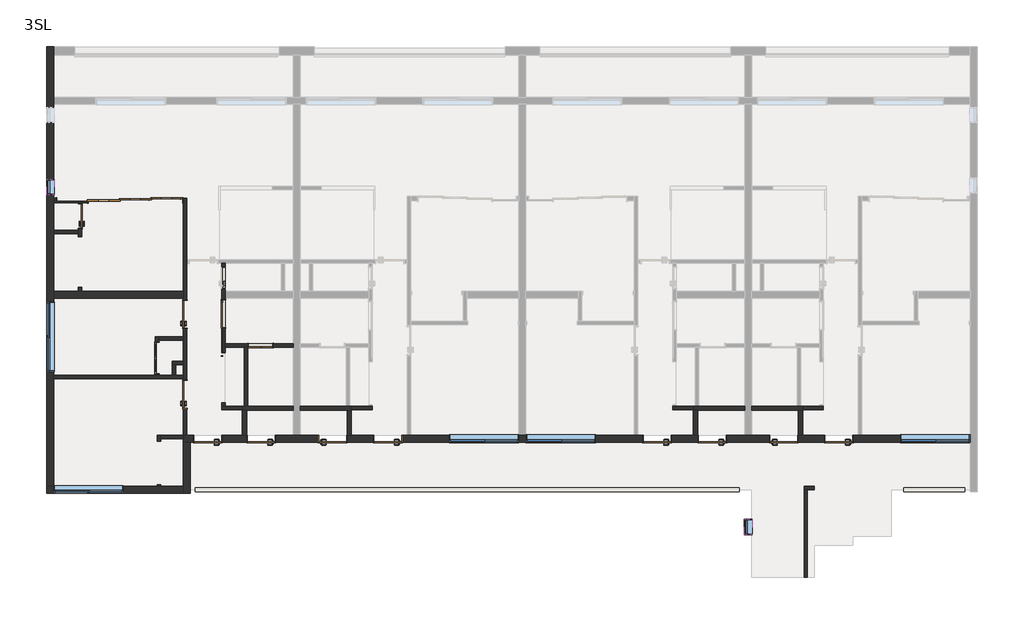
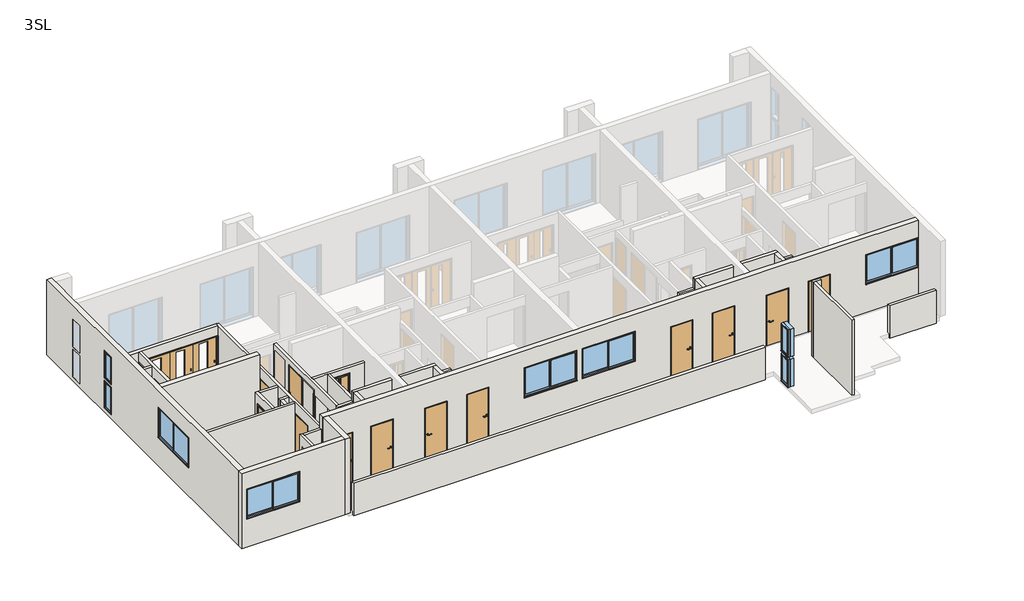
# One storey, part 1 of 3: 35 walls, 15 doors, 9 windows.
"""IFC4 building model written with IfcOpenShell, lengths in millimetres."""

from ifc_helpers import new_model, si_unit, frame, origin, place, context, project, spatial, polyline, outline, extrude, faceted_brep, transform, mapped, element, save
from components import door_02215395, door_74c77d62, door_21f0bdc0, door_3b96e66a, door_ecad7493, door_6eb1cc95, door_2193869f, door_12b42705, window_a7724039, window_4c3e1407, w0450_h1100_93ba837a

model = new_model("IFC4")

# Units and contexts
model_context = context("Model", 3, world=origin())
ifc_project = project(units=[si_unit("LENGTHUNIT", "METRE", prefix="MILLI")], contexts=[model_context])

# Site, building, storey
site = spatial("IfcSite", under=ifc_project)
building = spatial("IfcBuilding", under=site)
storey = spatial("IfcBuildingStorey", under=building, Name="3SL", Elevation=7000.0)

# Doors
placement = place(None, origin())
door_shape = door_02215395(model_context)
element("IfcDoor", 1, ObjectType="鋼製_片開きマンション黒 : SD-1 w800h2000", at=placement, inside=storey, context=model_context, shape_type="MappedRepresentation", body=[
    mapped(door_shape, transform((-6095.6194095, -909.7401342, 7000.0), x_axis=(-1.0, 0.0, 0.0), y_axis=(0.0, -1.0, 0.0), z_axis=(0.0, 0.0, 1.0))),
])
element("IfcDoor", 2, ObjectType="鋼製_片開きマンション黒 : SD-1 w800h2000", at=placement, inside=storey, context=model_context, shape_type="MappedRepresentation", body=[
    mapped(door_shape, transform((-945.6194095, -909.7401342, 7000.0), x_axis=(-1.0, 0.0, 0.0), y_axis=(0.0, -1.0, 0.0), z_axis=(0.0, 0.0, 1.0))),
])
element("IfcDoor", 3, ObjectType="鋼製_片開きマンション黒 : SD-1 w800h2000", at=placement, inside=storey, context=model_context, shape_type="MappedRepresentation", body=[
    mapped(door_shape, transform((6754.3805905, -909.7401342, 7000.0), x_axis=(-1.0, 0.0, 0.0), y_axis=(0.0, -1.0, 0.0), z_axis=(0.0, 0.0, 1.0))),
])
element("IfcDoor", 4, ObjectType="鋼製_片開きマンション黒 : SD-1 w800h2000", at=placement, inside=storey, context=model_context, shape_type="MappedRepresentation", body=[
    mapped(door_shape, transform((11954.3805905, -909.7401342, 7000.0), x_axis=(-1.0, 0.0, 0.0), y_axis=(0.0, -1.0, 0.0), z_axis=(0.0, 0.0, 1.0))),
])
element("IfcDoor", 5, ObjectType="鋼製_片開きマンション黒 : SD-2 w800h2000", at=placement, inside=storey, context=model_context, shape_type="MappedRepresentation", body=[
    mapped(door_shape, transform((-4565.6194095, -909.7401342, 7000.0), x_axis=(-1.0, 0.0, 0.0), y_axis=(0.0, -1.0, 0.0), z_axis=(0.0, 0.0, 1.0))),
])
element("IfcDoor", 6, ObjectType="鋼製_片開きマンション黒 : SD-2 w800h2000", at=placement, inside=storey, context=model_context, shape_type="MappedRepresentation", body=[
    mapped(door_shape, transform((8334.3805905, -909.7401342, 7000.0), x_axis=(-1.0, 0.0, 0.0), y_axis=(0.0, -1.0, 0.0), z_axis=(0.0, 0.0, 1.0))),
])
door_2_shape = door_74c77d62(model_context)
element("IfcDoor", 7, ObjectType="鋼製_片開きマンション黒 : SD-2 w800h2000", at=placement, inside=storey, context=model_context, shape_type="MappedRepresentation", body=[
    mapped(door_2_shape, transform((-2525.6194095, -909.7401342, 7000.0), x_axis=(1.0, 0.0, 0.0), y_axis=(0.0, 1.0, 0.0), z_axis=(0.0, 0.0, 1.0))),
])
element("IfcDoor", 8, ObjectType="鋼製_片開きマンション黒 : SD-2 w800h2000", at=placement, inside=storey, context=model_context, shape_type="MappedRepresentation", body=[
    mapped(door_2_shape, transform((10374.3805905, -909.7401342, 7000.0), x_axis=(1.0, 0.0, 0.0), y_axis=(0.0, 1.0, 0.0), z_axis=(0.0, 0.0, 1.0))),
])
door_3_shape = door_21f0bdc0(model_context)
element("IfcDoor", 9, ObjectType="木製_片開き_フラッシュ : WD-3 w700h2000", at=placement, inside=storey, context=model_context, shape_type="MappedRepresentation", body=[
    mapped(door_3_shape, transform((-9745.6194095, 5460.2598658, 7100.0), x_axis=(0.0, 1.0, 0.0), y_axis=(-1.0, 0.0, 0.0), z_axis=(0.0, 0.0, 1.0))),
])
door_4_shape = door_3b96e66a(model_context)
element("IfcDoor", 10, ObjectType="木製_片開き_フラッシュ : WD-1\u3000w800h2000", at=placement, inside=storey, context=model_context, shape_type="MappedRepresentation", body=[
    mapped(door_4_shape, transform((-6745.6194095, 365.2598658, 7060.0), x_axis=(0.0, 1.0, 0.0), y_axis=(-1.0, 0.0, 0.0), z_axis=(0.0, 0.0, 1.0))),
])
element("IfcDoor", 11, ObjectType="木製_片開き_フラッシュ : WD-1\u3000w800h2000", at=placement, inside=storey, context=model_context, shape_type="MappedRepresentation", body=[
    mapped(door_4_shape, transform((-6745.6194095, 2654.3897435, 7060.0), x_axis=(0.0, 1.0, 0.0), y_axis=(-1.0, 0.0, 0.0), z_axis=(0.0, 0.0, 1.0))),
])
door_5_shape = door_ecad7493(model_context)
element("IfcDoor", 12, ObjectType="木製_折戸2枚_フラッシュ(UB) : WD-5 w900h2000", at=placement, inside=storey, context=model_context, shape_type="MappedRepresentation", body=[
    mapped(door_5_shape, transform((-7545.6194095, 1404.0387532, 7060.0), x_axis=(0.0, 1.0, 0.0), y_axis=(-1.0, 0.0, 0.0), z_axis=(0.0, 0.0, 1.0))),
])
door_6_shape = door_6eb1cc95(model_context)
element("IfcDoor", 13, ObjectType="木製_折戸2枚_フラッシュ(UB) : UB-1 w600h2000", at=placement, inside=storey, context=model_context, shape_type="MappedRepresentation", body=[
    mapped(door_6_shape, transform((-4585.6194095, 1760.2598658, 7210.0), x_axis=(1.0, 0.0, 0.0), y_axis=(0.0, 1.0, 0.0), z_axis=(0.0, 0.0, 1.0))),
])
door_7_shape = door_2193869f(model_context)
element("IfcDoor", 14, ObjectType="木製_片引き3枚_フラッシュ2 : WD-8 w2700h2000", at=placement, inside=storey, context=model_context, shape_type="MappedRepresentation", body=[
    mapped(door_7_shape, transform((-8171.1549135, 5910.2598658, 7100.0), x_axis=(-1.0, 0.0, 0.0), y_axis=(0.0, -1.0, 0.0), z_axis=(0.0, 0.0, 1.0))),
])
door_8_shape = door_12b42705(model_context)
element("IfcDoor", 15, ObjectType="木製_片引き_フラッシュ : WD-4 w800h2000", at=placement, inside=storey, context=model_context, shape_type="MappedRepresentation", body=[
    mapped(door_8_shape, transform((-5645.6194095, 2664.7243619, 7210.0), x_axis=(0.0, -1.0, 0.0), y_axis=(1.0, 0.0, 0.0), z_axis=(0.0, 0.0, 1.0))),
])

# Walls
element("IfcWall", 16, ObjectType="(C2)120", at=placement, inside=storey, context=model_context, shape_type="Brep", body=[
    faceted_brep([(-3645.6194095, 30.2598658, 7000.0), (-5105.6194095, 30.2598658, 7000.0), (-5105.6194095, 30.2598658, 7060.0), (-5105.6194095, 30.2598658, 9460.0), (-5105.6194095, 30.2598658, 9850.0), (-3645.6194095, 30.2598658, 9850.0), (-3645.6194095, -89.7401342, 7000.0), (-3645.6194095, -89.7401342, 9850.0), (-4985.6194095, -89.7401342, 9850.0), (-5105.6194095, -89.7401342, 9850.0), (-5105.6194095, -89.7401342, 7000.0), (-4985.6194095, -89.7401342, 7000.0)], [[[0, 1, 2, 3, 4, 5]], [[6, 7, 8, 9, 10, 11]], [[1, 0, 6, 11, 10]], [[5, 4, 9, 8, 7]], [[1, 10, 9, 4, 3, 2]], [[0, 5, 7, 6]]]),
])
element("IfcWall", 17, ObjectType="(C2)120", at=placement, inside=storey, context=model_context, shape_type="Brep", body=[
    faceted_brep([(-5105.6194095, -89.7401342, 9850.0), (-5105.6194095, -89.7401342, 7000.0), (-5105.6194095, -809.7401342, 7000.0), (-5105.6194095, -809.7401342, 9850.0), (-4985.6194095, -89.7401342, 7000.0), (-4985.6194095, -89.7401342, 9850.0), (-4985.6194095, -809.7401342, 9850.0), (-4985.6194095, -809.7401342, 9020.0), (-4985.6194095, -809.7401342, 7000.0)], [[[0, 1, 2, 3]], [[4, 5, 6, 7, 8]], [[2, 1, 4, 8]], [[0, 3, 6, 5]], [[0, 5, 4, 1]], [[3, 2, 8, 7, 6]]]),
])
element("IfcWall", 18, ObjectType="(C2)120", at=placement, inside=storey, context=model_context, shape_type="Brep", body=[
    faceted_brep([(-3445.6194095, -89.7401342, 7000.0), (-2105.6194095, -89.7401342, 7000.0), (-1985.6194095, -89.7401342, 7000.0), (-1985.6194095, -89.7401342, 9850.0), (-2105.6194095, -89.7401342, 9850.0), (-3445.6194095, -89.7401342, 9850.0), (-3445.6194095, 30.2598658, 7000.0), (-3445.6194095, 30.2598658, 9850.0), (-1985.6194095, 30.2598658, 9850.0), (-1985.6194095, 30.2598658, 9460.0), (-1985.6194095, 30.2598658, 7000.0), (-2035.6194095, 30.2598658, 7000.0), (-2135.6194095, 30.2598658, 7000.0), (-1985.6194095, -69.7401342, 7000.0)], [[[0, 1, 2, 3, 4, 5]], [[6, 7, 8, 9, 10, 11, 12]], [[2, 1, 0, 6, 12, 11, 10, 13]], [[5, 4, 3, 8, 7]], [[2, 13, 10, 9, 8, 3]], [[0, 5, 7, 6]]]),
])
element("IfcWall", 19, ObjectType="(C2)120", at=placement, inside=storey, context=model_context, shape_type="Brep", body=[
    faceted_brep([(-2105.6194095, -89.7401342, 9850.0), (-2105.6194095, -89.7401342, 7000.0), (-2105.6194095, -809.7401342, 7000.0), (-2105.6194095, -809.7401342, 9020.0), (-2105.6194095, -809.7401342, 9850.0), (-1985.6194095, -89.7401342, 7000.0), (-1985.6194095, -89.7401342, 9850.0), (-1985.6194095, -809.7401342, 9850.0), (-1985.6194095, -809.7401342, 7000.0)], [[[0, 1, 2, 3, 4]], [[5, 6, 7, 8]], [[2, 1, 5, 8]], [[0, 4, 7, 6]], [[0, 6, 5, 1]], [[4, 3, 2, 8, 7]]]),
])
element("IfcWall", 20, ObjectType="(C2)120", at=placement, inside=storey, context=model_context, shape_type="Brep", body=[
    faceted_brep([(9254.3805905, 30.2598658, 7000.0), (7944.3805905, 30.2598658, 7000.0), (7844.3805905, 30.2598658, 7000.0), (7794.3805905, 30.2598658, 7000.0), (7794.3805905, 30.2598658, 9460.0), (7794.3805905, 30.2598658, 9850.0), (9254.3805905, 30.2598658, 9850.0), (9254.3805905, -89.7401342, 7000.0), (9254.3805905, -89.7401342, 9850.0), (7914.3805905, -89.7401342, 9850.0), (7794.3805905, -89.7401342, 9850.0), (7794.3805905, -89.7401342, 7000.0), (7914.3805905, -89.7401342, 7000.0), (7794.3805905, -69.7401342, 7000.0)], [[[0, 1, 2, 3, 4, 5, 6]], [[7, 8, 9, 10, 11, 12]], [[3, 2, 1, 0, 7, 12, 11, 13]], [[6, 5, 10, 9, 8]], [[3, 13, 11, 10, 5, 4]], [[0, 6, 8, 7]]]),
])
element("IfcWall", 21, ObjectType="(C2)120", at=placement, inside=storey, context=model_context, shape_type="Brep", body=[
    faceted_brep([(7794.3805905, -89.7401342, 9850.0), (7794.3805905, -89.7401342, 7000.0), (7794.3805905, -809.7401342, 7000.0), (7794.3805905, -809.7401342, 9850.0), (7914.3805905, -89.7401342, 7000.0), (7914.3805905, -89.7401342, 9850.0), (7914.3805905, -809.7401342, 9850.0), (7914.3805905, -809.7401342, 9020.0), (7914.3805905, -809.7401342, 7000.0)], [[[0, 1, 2, 3]], [[4, 5, 6, 7, 8]], [[2, 1, 4, 8]], [[0, 3, 6, 5]], [[0, 5, 4, 1]], [[3, 2, 8, 7, 6]]]),
])
element("IfcWall", 22, ObjectType="(C2)120", at=placement, inside=storey, context=model_context, shape_type="Brep", body=[
    faceted_brep([(9454.3805905, -89.7401342, 7000.0), (10794.3805905, -89.7401342, 7000.0), (10914.3805905, -89.7401342, 7000.0), (10914.3805905, -89.7401342, 9850.0), (10794.3805905, -89.7401342, 9850.0), (9454.3805905, -89.7401342, 9850.0), (9454.3805905, 30.2598658, 7000.0), (9454.3805905, 30.2598658, 9850.0), (10914.3805905, 30.2598658, 9850.0), (10914.3805905, 30.2598658, 9460.0), (10914.3805905, 30.2598658, 7000.0), (10864.3805905, 30.2598658, 7000.0), (10764.3805905, 30.2598658, 7000.0), (10914.3805905, -69.7401342, 7000.0)], [[[0, 1, 2, 3, 4, 5]], [[6, 7, 8, 9, 10, 11, 12]], [[2, 1, 0, 6, 12, 11, 10, 13]], [[5, 4, 3, 8, 7]], [[2, 13, 10, 9, 8, 3]], [[0, 5, 7, 6]]]),
])
element("IfcWall", 23, ObjectType="(C2)120", at=placement, inside=storey, context=model_context, shape_type="Brep", body=[
    faceted_brep([(10794.3805905, -89.7401342, 9850.0), (10794.3805905, -89.7401342, 7000.0), (10794.3805905, -809.7401342, 7000.0), (10794.3805905, -809.7401342, 9020.0), (10794.3805905, -809.7401342, 9850.0), (10914.3805905, -89.7401342, 7000.0), (10914.3805905, -89.7401342, 9850.0), (10914.3805905, -809.7401342, 9850.0), (10914.3805905, -809.7401342, 7000.0)], [[[0, 1, 2, 3, 4]], [[5, 6, 7, 8]], [[2, 1, 5, 8]], [[0, 4, 7, 6]], [[0, 6, 5, 1]], [[4, 3, 2, 8, 7]]]),
])
element("IfcWall", 24, ObjectType="(L)100", at=placement, inside=storey, context=model_context, shape_type="Brep", body=[
    faceted_brep([(-7545.6194095, -2259.7401342, 9460.0), (-7545.6194095, -809.7401342, 9460.0), (-7545.6194095, -809.7401342, 7060.0), (-7545.6194095, -975.9612468, 7060.0), (-7545.6194095, -975.9612468, 9080.0), (-7545.6194095, -2215.9612468, 9080.0), (-7545.6194095, -2215.9612468, 7060.0), (-7545.6194095, -2259.7401342, 7060.0), (-7445.6194095, -809.7401342, 9460.0), (-7445.6194095, -909.7401342, 9460.0), (-7445.6194095, -2259.7401342, 9460.0), (-7445.6194095, -2259.7401342, 7060.0), (-7445.6194095, -2215.9612468, 7060.0), (-7445.6194095, -2215.9612468, 9080.0), (-7445.6194095, -975.9612468, 9080.0), (-7445.6194095, -975.9612468, 7060.0), (-7445.6194095, -909.7401342, 7060.0), (-7445.6194095, -809.7401342, 7060.0)], [[[0, 1, 2, 3, 4, 5, 6, 7]], [[8, 9, 10, 11, 12, 13, 14, 15, 16, 17]], [[2, 17, 16, 15, 3]], [[11, 7, 6, 12]], [[1, 0, 10, 9, 8]], [[2, 1, 8, 17]], [[0, 7, 11, 10]], [[14, 4, 3, 15]], [[5, 13, 12, 6]], [[13, 5, 4, 14]]]),
])
element("IfcWall", 25, ObjectType="(L)100", at=placement, inside=storey, context=model_context, shape_type="SweptSolid", body=[
    extrude(outline(polyline([(-7445.6194095, -809.7401342), (-6795.6194095, -809.7401342), (-6795.6194095, -909.7401342), (-7445.6194095, -909.7401342), (-7445.6194095, -809.7401342)])), frame((0.0, 0.0, 7060.0), z_axis=(0.0, 0.0, 1.0), x_axis=(1.0, 0.0, 0.0)), (0.0, 0.0, 1.0), 2400.0),
])
element("IfcWall", 26, ObjectType="(L)100", at=placement, inside=storey, context=model_context, shape_type="Brep", body=[
    faceted_brep([(-6795.6194095, 910.2598658, 7060.0), (-7015.6194095, 910.2598658, 7060.0), (-7115.6194095, 910.2598658, 7060.0), (-10495.6194095, 910.2598658, 7060.0), (-10495.6194095, 910.2598658, 9460.0), (-7595.6194095, 910.2598658, 9460.0), (-7495.6194095, 910.2598658, 9460.0), (-7115.6194095, 910.2598658, 9460.0), (-7015.6194095, 910.2598658, 9460.0), (-6795.6194095, 910.2598658, 9460.0), (-6795.6194095, 810.2598658, 7060.0), (-6795.6194095, 810.2598658, 9460.0), (-10495.6194095, 810.2598658, 9460.0), (-10495.6194095, 810.2598658, 7060.0)], [[[0, 1, 2, 3, 4, 5, 6, 7, 8, 9]], [[10, 11, 12, 13]], [[3, 2, 1, 0, 10, 13]], [[9, 8, 7, 6, 5, 4, 12, 11]], [[4, 3, 13, 12]], [[0, 9, 11, 10]]]),
])
element("IfcWall", 27, ObjectType="(L)100", at=placement, inside=storey, context=model_context, shape_type="Brep", body=[
    faceted_brep([(-5105.6194095, 30.2598658, 7060.0), (-5595.6194095, 30.2598658, 7060.0), (-5695.6194095, 30.2598658, 7060.0), (-5695.6194095, 30.2598658, 9460.0), (-5595.6194095, 30.2598658, 9460.0), (-5105.6194095, 30.2598658, 9460.0), (-5105.6194095, -69.7401342, 7060.0), (-5105.6194095, -69.7401342, 9460.0), (-5695.6194095, -69.7401342, 9460.0), (-5695.6194095, -69.7401342, 7060.0)], [[[0, 1, 2, 3, 4, 5]], [[6, 7, 8, 9]], [[2, 1, 0, 6, 9]], [[5, 4, 3, 8, 7]], [[3, 2, 9, 8]], [[0, 5, 7, 6]]]),
])
element("IfcWall", 28, ObjectType="(L)100", at=placement, inside=storey, context=model_context, shape_type="Brep", body=[
    faceted_brep([(-5595.6194095, 4110.2598658, 9460.0), (-5595.6194095, 1810.2598658, 9460.0), (-5595.6194095, 1710.2598658, 9460.0), (-5595.6194095, 30.2598658, 9460.0), (-5595.6194095, 30.2598658, 7060.0), (-5595.6194095, 120.2598658, 7060.0), (-5595.6194095, 120.2598658, 9020.0), (-5595.6194095, 1560.2598658, 9020.0), (-5595.6194095, 1560.2598658, 7060.0), (-5595.6194095, 1710.2598658, 7060.0), (-5595.6194095, 1810.2598658, 7060.0), (-5595.6194095, 4110.2598658, 7060.0), (-5595.6194095, 2250.2598658, 9230.0), (-5595.6194095, 3090.2598658, 9230.0), (-5595.6194095, 3090.2598658, 7210.0), (-5595.6194095, 2250.2598658, 7210.0), (-5595.6194095, 4016.254513, 9230.0), (-5595.6194095, 4016.254513, 7210.0), (-5595.6194095, 3376.254513, 7210.0), (-5595.6194095, 3376.254513, 9230.0), (-5695.6194095, 30.2598658, 9460.0), (-5695.6194095, 4110.2598658, 9460.0), (-5695.6194095, 4110.2598658, 7060.0), (-5695.6194095, 1560.2598658, 7060.0), (-5695.6194095, 1560.2598658, 7210.0), (-5695.6194095, 3090.2598658, 7210.0), (-5695.6194095, 3090.2598658, 9230.0), (-5695.6194095, 1450.2598658, 9230.0), (-5695.6194095, 1450.2598658, 9020.0), (-5695.6194095, 120.2598658, 9020.0), (-5695.6194095, 120.2598658, 7060.0), (-5695.6194095, 30.2598658, 7060.0), (-5695.6194095, 4016.254513, 7210.0), (-5695.6194095, 4016.254513, 9230.0), (-5695.6194095, 3376.254513, 9230.0), (-5695.6194095, 3376.254513, 7210.0), (-5665.6194095, 2250.2598658, 9230.0), (-5665.6194095, 1450.2598658, 9230.0), (-5665.6194095, 1560.2598658, 7210.0), (-5665.6194095, 2250.2598658, 7210.0), (-5665.6194095, 1560.2598658, 9020.0), (-5665.6194095, 1450.2598658, 9020.0)], [[[0, 1, 2, 3, 4, 5, 6, 7, 8, 9, 10, 11], [12, 13, 14, 15], [16, 17, 18, 19]], [[20, 21, 22, 23, 24, 25, 26, 27, 28, 29, 30, 31], [32, 33, 34, 35]], [[22, 11, 10, 9, 8, 23]], [[4, 31, 30, 5]], [[3, 2, 1, 0, 21, 20]], [[0, 11, 22, 21]], [[4, 3, 20, 31]], [[36, 37, 27, 26, 13, 12]], [[13, 26, 25, 14]], [[14, 25, 24, 38, 39, 15]], [[39, 36, 12, 15]], [[37, 36, 39, 38, 40, 41]], [[27, 37, 41, 28]], [[7, 40, 38, 24, 23, 8]], [[29, 6, 5, 30]], [[40, 7, 6, 29, 28, 41]], [[16, 33, 32, 17]], [[17, 32, 35, 18]], [[18, 35, 34, 19]], [[33, 16, 19, 34]]]),
])
element("IfcWall", 29, ObjectType="(L)100", at=placement, inside=storey, context=model_context, shape_type="Brep", body=[
    faceted_brep([(-3645.6194095, 1810.2598658, 7060.0), (-5595.6194095, 1810.2598658, 7060.0), (-5595.6194095, 1810.2598658, 9460.0), (-3645.6194095, 1810.2598658, 9460.0), (-4215.6194095, 1810.2598658, 9230.0), (-4955.6194095, 1810.2598658, 9230.0), (-4955.6194095, 1810.2598658, 7210.0), (-4215.6194095, 1810.2598658, 7210.0), (-3645.6194095, 1710.2598658, 7060.0), (-3645.6194095, 1710.2598658, 9460.0), (-4955.6194095, 1710.2598658, 9460.0), (-5055.6194095, 1710.2598658, 9460.0), (-5595.6194095, 1710.2598658, 9460.0), (-5595.6194095, 1710.2598658, 7060.0), (-5055.6194095, 1710.2598658, 7060.0), (-4955.6194095, 1710.2598658, 7060.0), (-4215.6194095, 1710.2598658, 9230.0), (-4215.6194095, 1710.2598658, 7210.0), (-4955.6194095, 1710.2598658, 7210.0), (-4955.6194095, 1710.2598658, 9230.0)], [[[0, 1, 2, 3], [4, 5, 6, 7]], [[8, 9, 10, 11, 12, 13, 14, 15], [16, 17, 18, 19]], [[1, 0, 8, 15, 14, 13]], [[3, 2, 12, 11, 10, 9]], [[0, 3, 9, 8]], [[2, 1, 13, 12]], [[17, 16, 4, 7]], [[18, 17, 7, 6]], [[19, 18, 6, 5]], [[16, 19, 5, 4]]]),
])
element("IfcWall", 30, ObjectType="(L)100", at=placement, inside=storey, context=model_context, shape_type="Brep", body=[
    faceted_brep([(-7595.6194095, 2010.2598658, 7000.0), (-7595.6194095, 910.2598658, 7000.0), (-7595.6194095, 910.2598658, 9460.0), (-7595.6194095, 2010.2598658, 9460.0), (-7595.6194095, 934.0387532, 7060.0), (-7595.6194095, 1874.0387532, 7060.0), (-7595.6194095, 1874.0387532, 9080.0), (-7595.6194095, 934.0387532, 9080.0), (-7495.6194095, 910.2598658, 7000.0), (-7495.6194095, 2010.2598658, 7000.0), (-7495.6194095, 2010.2598658, 7060.0), (-7495.6194095, 2010.2598658, 9460.0), (-7495.6194095, 1910.2598658, 9460.0), (-7495.6194095, 910.2598658, 9460.0), (-7495.6194095, 1874.0387532, 7060.0), (-7495.6194095, 934.0387532, 7060.0), (-7495.6194095, 934.0387532, 9080.0), (-7495.6194095, 1874.0387532, 9080.0)], [[[0, 1, 2, 3], [4, 5, 6, 7]], [[8, 9, 10, 11, 12, 13], [14, 15, 16, 17]], [[1, 0, 9, 8]], [[3, 2, 13, 12, 11]], [[0, 3, 11, 10, 9]], [[2, 1, 8, 13]], [[5, 14, 17, 6]], [[14, 5, 4, 15]], [[15, 4, 7, 16]], [[16, 7, 6, 17]]]),
])
element("IfcWall", 31, ObjectType="(L)100", at=placement, inside=storey, context=model_context, shape_type="SweptSolid", body=[
    extrude(outline(polyline([(-7495.6194095, 2010.2598658), (-6795.6194095, 2010.2598658), (-6795.6194095, 1910.2598658), (-7495.6194095, 1910.2598658), (-7495.6194095, 2010.2598658)])), frame((0.0, 0.0, 7060.0), z_axis=(0.0, 0.0, 1.0), x_axis=(1.0, 0.0, 0.0)), (0.0, 0.0, 1.0), 2400.0),
])
element("IfcWall", 32, ObjectType="(L)100", at=placement, inside=storey, context=model_context, shape_type="Brep", body=[
    faceted_brep([(-6795.6194095, -809.7401342, 9500.0), (-6795.6194095, 5847.7598658, 9500.0), (-6795.6194095, 5972.7598658, 9500.0), (-6795.6194095, 5972.7598658, 9120.0), (-6795.6194095, 5972.7598658, 7100.0), (-6795.6194095, 3074.3897435, 7100.0), (-6795.6194095, 3074.3897435, 9080.0), (-6795.6194095, 2234.3897435, 9080.0), (-6795.6194095, 2234.3897435, 7100.0), (-6795.6194095, 785.2598658, 7100.0), (-6795.6194095, 785.2598658, 9080.0), (-6795.6194095, -54.7401342, 9080.0), (-6795.6194095, -54.7401342, 7100.0), (-6795.6194095, -809.7401342, 7100.0), (-6695.6194095, 5972.7598658, 9500.0), (-6695.6194095, -809.7401342, 9500.0), (-6695.6194095, -809.7401342, 7100.0), (-6695.6194095, -54.7401342, 7100.0), (-6695.6194095, -54.7401342, 9080.0), (-6695.6194095, 785.2598658, 9080.0), (-6695.6194095, 785.2598658, 7100.0), (-6695.6194095, 2234.3897435, 7100.0), (-6695.6194095, 2234.3897435, 9080.0), (-6695.6194095, 3074.3897435, 9080.0), (-6695.6194095, 3074.3897435, 7100.0), (-6695.6194095, 5972.7598658, 7100.0)], [[[0, 1, 2, 3, 4, 5, 6, 7, 8, 9, 10, 11, 12, 13]], [[14, 15, 16, 17, 18, 19, 20, 21, 22, 23, 24, 25]], [[4, 25, 24, 5]], [[16, 13, 12, 17]], [[20, 9, 8, 21]], [[2, 1, 0, 15, 14]], [[4, 3, 2, 14, 25]], [[13, 16, 15, 0]], [[19, 10, 9, 20]], [[11, 18, 17, 12]], [[10, 19, 18, 11]], [[23, 6, 5, 24]], [[7, 22, 21, 8]], [[6, 23, 22, 7]]]),
])
element("IfcWall", 33, ObjectType="(L)100", at=placement, inside=storey, context=model_context, shape_type="SweptSolid", body=[
    extrude(outline(polyline([(3310.2598658, 9500.0), (5847.7598658, 9500.0), (5847.7598658, 7100.0), (5830.2598658, 7100.0), (5830.2598658, 9120.0), (5090.2598658, 9120.0), (5090.2598658, 7100.0), (4866.254513, 7100.0), (4866.254513, 9080.0), (3426.254513, 9080.0), (3426.254513, 7100.0), (3310.2598658, 7100.0), (3310.2598658, 9500.0)])), frame((-9795.6194095, 0.0, 0.0), z_axis=(1.0, 0.0, 0.0), x_axis=(0.0, 1.0, 0.0)), (0.0, 0.0, 1.0), 100.0),
])
element("IfcWall", 34, ObjectType="(L)100", at=placement, inside=storey, context=model_context, shape_type="SweptSolid", body=[
    extrude(outline(polyline([(-10495.6194095, 5060.2598658), (-9795.6194095, 5060.2598658), (-9795.6194095, 4960.2598658), (-10495.6194095, 4960.2598658), (-10495.6194095, 5060.2598658)])), frame((0.0, 0.0, 7060.0), z_axis=(0.0, 0.0, 1.0), x_axis=(1.0, 0.0, 0.0)), (0.0, 0.0, 1.0), 2400.0),
])
element("IfcWall", 35, ObjectType="(L)100", at=placement, inside=storey, context=model_context, shape_type="Brep", body=[
    faceted_brep([(-1985.6194095, -69.7401342, 7000.0), (-1395.6194095, -69.7401342, 7000.0), (-1395.6194095, -69.7401342, 9460.0), (-1985.6194095, -69.7401342, 9460.0), (-1985.6194095, 30.2598658, 7000.0), (-1985.6194095, 30.2598658, 9460.0), (-1495.6194095, 30.2598658, 9460.0), (-1395.6194095, 30.2598658, 9460.0), (-1395.6194095, 30.2598658, 7060.0), (-1395.6194095, 30.2598658, 7000.0)], [[[0, 1, 2, 3]], [[4, 5, 6, 7, 8, 9]], [[1, 0, 4, 9]], [[3, 2, 7, 6, 5]], [[2, 1, 9, 8, 7]], [[0, 3, 5, 4]]]),
])
element("IfcWall", 36, ObjectType="(L)100", at=placement, inside=storey, context=model_context, shape_type="Brep", body=[
    faceted_brep([(-5055.6194095, 1710.2598658, 7060.0), (-5055.6194095, 30.2598658, 7060.0), (-5055.6194095, 30.2598658, 9460.0), (-5055.6194095, 1710.2598658, 9460.0), (-4955.6194095, 1710.2598658, 7060.0), (-4955.6194095, 1710.2598658, 7210.0), (-4955.6194095, 1710.2598658, 9230.0), (-4955.6194095, 1710.2598658, 9460.0), (-4955.6194095, 30.2598658, 9460.0), (-4955.6194095, 30.2598658, 7060.0)], [[[0, 1, 2, 3]], [[4, 5, 6, 7, 8, 9]], [[1, 0, 4, 9]], [[3, 2, 8, 7]], [[2, 1, 9, 8]], [[0, 3, 7, 6, 5, 4]]]),
])
element("IfcWall", 37, ObjectType="(L)100", at=placement, inside=storey, context=model_context, shape_type="Brep", body=[
    faceted_brep([(7794.3805905, 30.2598658, 7000.0), (7204.3805905, 30.2598658, 7000.0), (7204.3805905, 30.2598658, 7060.0), (7204.3805905, 30.2598658, 9460.0), (7304.3805905, 30.2598658, 9460.0), (7794.3805905, 30.2598658, 9460.0), (7794.3805905, -69.7401342, 7000.0), (7794.3805905, -69.7401342, 9460.0), (7204.3805905, -69.7401342, 9460.0), (7204.3805905, -69.7401342, 7000.0)], [[[0, 1, 2, 3, 4, 5]], [[6, 7, 8, 9]], [[1, 0, 6, 9]], [[5, 4, 3, 8, 7]], [[3, 2, 1, 9, 8]], [[0, 5, 7, 6]]]),
])
element("IfcWall", 38, ObjectType="(L)100", at=placement, inside=storey, context=model_context, shape_type="Brep", body=[
    faceted_brep([(10914.3805905, -69.7401342, 7000.0), (11504.3805905, -69.7401342, 7000.0), (11504.3805905, -69.7401342, 9460.0), (10914.3805905, -69.7401342, 9460.0), (10914.3805905, 30.2598658, 7000.0), (10914.3805905, 30.2598658, 9460.0), (11404.3805905, 30.2598658, 9460.0), (11504.3805905, 30.2598658, 9460.0), (11504.3805905, 30.2598658, 7060.0), (11504.3805905, 30.2598658, 7000.0)], [[[0, 1, 2, 3]], [[4, 5, 6, 7, 8, 9]], [[1, 0, 4, 9]], [[3, 2, 7, 6, 5]], [[2, 1, 9, 8, 7]], [[0, 3, 5, 4]]]),
])
element("IfcWall", 39, ObjectType="(L)100", at=placement, inside=storey, context=model_context, shape_type="Brep", body=[
    faceted_brep([(-6795.6194095, 1310.2598658, 7060.0), (-7115.6194095, 1310.2598658, 7060.0), (-7115.6194095, 1310.2598658, 9460.0), (-6795.6194095, 1310.2598658, 9460.0), (-6795.6194095, 1210.2598658, 7060.0), (-6795.6194095, 1210.2598658, 9460.0), (-7015.6194095, 1210.2598658, 9460.0), (-7115.6194095, 1210.2598658, 9460.0), (-7115.6194095, 1210.2598658, 7060.0), (-7015.6194095, 1210.2598658, 7060.0)], [[[0, 1, 2, 3]], [[4, 5, 6, 7, 8, 9]], [[1, 0, 4, 9, 8]], [[3, 2, 7, 6, 5]], [[2, 1, 8, 7]], [[0, 3, 5, 4]]]),
])
element("IfcWall", 40, ObjectType="(L)100", at=placement, inside=storey, context=model_context, shape_type="SweptSolid", body=[
    extrude(outline(polyline([(-7115.6194095, 910.2598658), (-7115.6194095, 1210.2598658), (-7015.6194095, 1210.2598658), (-7015.6194095, 910.2598658), (-7115.6194095, 910.2598658)])), frame((0.0, 0.0, 7060.0), z_axis=(0.0, 0.0, 1.0), x_axis=(1.0, 0.0, 0.0)), (0.0, 0.0, 1.0), 2400.0),
])
element("IfcWall", 41, ObjectType="(L)100", at=placement, inside=storey, context=model_context, shape_type="Brep", body=[
    faceted_brep([(11254.3805905, -2259.7401342, 7000.0), (10954.3805905, -2259.7401342, 7000.0), (10954.3805905, -2259.7401342, 10000.0), (11254.3805905, -2259.7401342, 10000.0), (11254.3805905, -2359.7401342, 7000.0), (11254.3805905, -2359.7401342, 10000.0), (11054.3805905, -2359.7401342, 10000.0), (10954.3805905, -2359.7401342, 10000.0), (10954.3805905, -2359.7401342, 7000.0), (11054.3805905, -2359.7401342, 7000.0)], [[[0, 1, 2, 3]], [[4, 5, 6, 7, 8, 9]], [[1, 0, 4, 9, 8]], [[3, 2, 7, 6, 5]], [[2, 1, 8, 7]], [[0, 3, 5, 4]]]),
])
element("IfcWall", 42, ObjectType="(L)100", at=placement, inside=storey, context=model_context, shape_type="SweptSolid", body=[
    extrude(outline(polyline([(10954.3805905, -4859.7401342), (10954.3805905, -2359.7401342), (11054.3805905, -2359.7401342), (11054.3805905, -4859.7401342), (10954.3805905, -4859.7401342)])), frame((0.0, 0.0, 7000.0), z_axis=(0.0, 0.0, 1.0), x_axis=(1.0, 0.0, 0.0)), (0.0, 0.0, 1.0), 3000.0),
])
element("IfcWall", 43, ObjectType="(L1)125", at=placement, inside=storey, context=model_context, shape_type="Brep", body=[
    faceted_brep([(-6795.6194095, 5847.7598658, 9500.0), (-9695.6194095, 5847.7598658, 9500.0), (-9795.6194095, 5847.7598658, 9500.0), (-10495.6194095, 5847.7598658, 9500.0), (-10495.6194095, 5847.7598658, 7100.0), (-9795.6194095, 5847.7598658, 7100.0), (-9695.6194095, 5847.7598658, 7100.0), (-9535.6194095, 5847.7598658, 7100.0), (-9535.6194095, 5847.7598658, 9120.0), (-6795.6194095, 5847.7598658, 9120.0), (-10495.6194095, 5972.7598658, 9500.0), (-6795.6194095, 5972.7598658, 9500.0), (-6795.6194095, 5972.7598658, 9120.0), (-10435.6194095, 5972.7598658, 9120.0), (-10435.6194095, 5972.7598658, 7100.0), (-10495.6194095, 5972.7598658, 7100.0), (-10435.6194095, 5882.7598658, 7100.0), (-9535.6194095, 5882.7598658, 7100.0), (-9535.6194095, 5882.7598658, 9120.0), (-10435.6194095, 5882.7598658, 9120.0)], [[[0, 1, 2, 3, 4, 5, 6, 7, 8, 9]], [[10, 11, 12, 13, 14, 15]], [[4, 15, 14, 16, 17, 7, 6, 5]], [[3, 2, 1, 0, 11, 10]], [[4, 3, 10, 15]], [[11, 0, 9, 12]], [[18, 19, 13, 12, 9, 8]], [[17, 18, 8, 7]], [[19, 18, 17, 16]], [[19, 16, 14, 13]]]),
])
element("IfcWall", 44, ObjectType="(R)120", at=placement, inside=storey, context=model_context, shape_type="SweptSolid", body=[
    extrude(outline(polyline([(9104.3805905, -2419.7401342), (-6448.5682145, -2419.7401342), (-6448.5682145, -2299.7401342), (9104.3805905, -2299.7401342), (9104.3805905, -2419.7401342)])), frame((0.0, 0.0, 6800.0), z_axis=(0.0, 0.0, 1.0), x_axis=(1.0, 0.0, 0.0)), (0.0, 0.0, 1.0), 1300.0),
])
element("IfcWall", 45, ObjectType="(R)120", at=placement, inside=storey, context=model_context, shape_type="SweptSolid", body=[
    extrude(outline(polyline([(15554.3805905, -2419.7401342), (13804.3805905, -2419.7401342), (13804.3805905, -2299.7401342), (15554.3805905, -2299.7401342), (15554.3805905, -2419.7401342)])), frame((0.0, 0.0, 6800.0), z_axis=(0.0, 0.0, 1.0), x_axis=(1.0, 0.0, 0.0)), (0.0, 0.0, 1.0), 1300.0),
])
element("IfcWall", 46, ObjectType="(R)200", at=placement, inside=storey, context=model_context, shape_type="Brep", body=[
    faceted_brep([(-6795.6194095, -809.7401342, 10000.0), (-3645.6194095, -809.7401342, 10000.0), (-3445.6194095, -809.7401342, 10000.0), (2804.3805905, -809.7401342, 10000.0), (3004.3805905, -809.7401342, 10000.0), (9254.3805905, -809.7401342, 10000.0), (9454.3805905, -809.7401342, 10000.0), (15704.3805905, -809.7401342, 10000.0), (15704.3805905, -809.7401342, 9320.0), (13704.3805905, -809.7401342, 9320.0), (13704.3805905, -809.7401342, 8120.0), (15704.3805905, -809.7401342, 8120.0), (15704.3805905, -809.7401342, 7000.0), (12374.3805905, -809.7401342, 7000.0), (12374.3805905, -809.7401342, 9020.0), (11534.3805905, -809.7401342, 9020.0), (11534.3805905, -809.7401342, 7000.0), (10914.3805905, -809.7401342, 7000.0), (10794.3805905, -809.7401342, 7000.0), (10794.3805905, -809.7401342, 9020.0), (9954.3805905, -809.7401342, 9020.0), (9954.3805905, -809.7401342, 7000.0), (9454.3805905, -809.7401342, 7000.0), (9254.3805905, -809.7401342, 7000.0), (8754.3805905, -809.7401342, 7000.0), (8754.3805905, -809.7401342, 9020.0), (7914.3805905, -809.7401342, 9020.0), (7914.3805905, -809.7401342, 7000.0), (7794.3805905, -809.7401342, 7000.0), (7174.3805905, -809.7401342, 7000.0), (7174.3805905, -809.7401342, 9020.0), (6334.3805905, -809.7401342, 9020.0), (6334.3805905, -809.7401342, 7000.0), (3004.3805905, -809.7401342, 7000.0), (2804.3805905, -809.7401342, 7000.0), (-525.6194095, -809.7401342, 7000.0), (-525.6194095, -809.7401342, 9020.0), (-1365.6194095, -809.7401342, 9020.0), (-1365.6194095, -809.7401342, 7000.0), (-1985.6194095, -809.7401342, 7000.0), (-2105.6194095, -809.7401342, 7000.0), (-2105.6194095, -809.7401342, 9020.0), (-2945.6194095, -809.7401342, 9020.0), (-2945.6194095, -809.7401342, 7000.0), (-3445.6194095, -809.7401342, 7000.0), (-3645.6194095, -809.7401342, 7000.0), (-4145.6194095, -809.7401342, 7000.0), (-4145.6194095, -809.7401342, 9020.0), (-4985.6194095, -809.7401342, 9020.0), (-4985.6194095, -809.7401342, 7000.0), (-5105.6194095, -809.7401342, 7000.0), (-5675.6194095, -809.7401342, 7000.0), (-5675.6194095, -809.7401342, 9020.0), (-6515.6194095, -809.7401342, 9020.0), (-6515.6194095, -809.7401342, 7000.0), (-6795.6194095, -809.7401342, 7000.0), (-6795.6194095, -809.7401342, 7100.0), (-6795.6194095, -809.7401342, 9500.0), (5004.3805905, -809.7401342, 8120.0), (5004.3805905, -809.7401342, 9320.0), (3004.3805905, -809.7401342, 9320.0), (3004.3805905, -809.7401342, 8120.0), (2804.3805905, -809.7401342, 8120.0), (2804.3805905, -809.7401342, 9320.0), (804.3805905, -809.7401342, 9320.0), (804.3805905, -809.7401342, 8120.0), (15704.3805905, -1009.7401342, 10000.0), (-6595.6194095, -1009.7401342, 10000.0), (-6795.6194095, -1009.7401342, 10000.0), (-6795.6194095, -1009.7401342, 7000.0), (-6595.6194095, -1009.7401342, 7000.0), (-6515.6194095, -1009.7401342, 7000.0), (-6515.6194095, -1009.7401342, 9020.0), (-5675.6194095, -1009.7401342, 9020.0), (-5675.6194095, -1009.7401342, 7000.0), (-4985.6194095, -1009.7401342, 7000.0), (-4985.6194095, -1009.7401342, 9020.0), (-4145.6194095, -1009.7401342, 9020.0), (-4145.6194095, -1009.7401342, 7000.0), (-2945.6194095, -1009.7401342, 7000.0), (-2945.6194095, -1009.7401342, 9020.0), (-2105.6194095, -1009.7401342, 9020.0), (-2105.6194095, -1009.7401342, 7000.0), (-1365.6194095, -1009.7401342, 7000.0), (-1365.6194095, -1009.7401342, 9020.0), (-525.6194095, -1009.7401342, 9020.0), (-525.6194095, -1009.7401342, 7000.0), (6334.3805905, -1009.7401342, 7000.0), (6334.3805905, -1009.7401342, 9020.0), (7174.3805905, -1009.7401342, 9020.0), (7174.3805905, -1009.7401342, 7000.0), (7914.3805905, -1009.7401342, 7000.0), (7914.3805905, -1009.7401342, 9020.0), (8754.3805905, -1009.7401342, 9020.0), (8754.3805905, -1009.7401342, 7000.0), (9954.3805905, -1009.7401342, 7000.0), (9954.3805905, -1009.7401342, 9020.0), (10794.3805905, -1009.7401342, 9020.0), (10794.3805905, -1009.7401342, 7000.0), (11534.3805905, -1009.7401342, 7000.0), (11534.3805905, -1009.7401342, 9020.0), (12374.3805905, -1009.7401342, 9020.0), (12374.3805905, -1009.7401342, 7000.0), (15704.3805905, -1009.7401342, 7000.0), (15704.3805905, -1009.7401342, 8120.0), (13704.3805905, -1009.7401342, 8120.0), (13704.3805905, -1009.7401342, 9320.0), (15704.3805905, -1009.7401342, 9320.0), (5004.3805905, -1009.7401342, 8120.0), (3004.3805905, -1009.7401342, 8120.0), (3004.3805905, -1009.7401342, 9320.0), (5004.3805905, -1009.7401342, 9320.0), (2804.3805905, -1009.7401342, 8120.0), (804.3805905, -1009.7401342, 8120.0), (804.3805905, -1009.7401342, 9320.0), (2804.3805905, -1009.7401342, 9320.0)], [[[0, 1, 2, 3, 4, 5, 6, 7, 8, 9, 10, 11, 12, 13, 14, 15, 16, 17, 18, 19, 20, 21, 22, 23, 24, 25, 26, 27, 28, 29, 30, 31, 32, 33, 34, 35, 36, 37, 38, 39, 40, 41, 42, 43, 44, 45, 46, 47, 48, 49, 50, 51, 52, 53, 54, 55, 56, 57], [58, 59, 60, 61], [62, 63, 64, 65]], [[66, 67, 68, 69, 70, 71, 72, 73, 74, 75, 76, 77, 78, 79, 80, 81, 82, 83, 84, 85, 86, 87, 88, 89, 90, 91, 92, 93, 94, 95, 96, 97, 98, 99, 100, 101, 102, 103, 104, 105, 106, 107], [108, 109, 110, 111], [112, 113, 114, 115]], [[69, 55, 54, 71, 70]], [[12, 103, 102, 13]], [[74, 51, 50, 49, 75]], [[78, 46, 45, 44, 43, 79]], [[38, 83, 82, 40, 39]], [[86, 35, 34, 33, 32, 87]], [[90, 29, 28, 27, 91]], [[94, 24, 23, 22, 21, 95]], [[16, 99, 98, 18, 17]], [[7, 6, 5, 4, 3, 2, 1, 0, 68, 67, 66]], [[7, 66, 107, 8]], [[103, 12, 11, 104]], [[55, 69, 68, 0, 57, 56]], [[54, 53, 72, 71]], [[52, 51, 74, 73]], [[53, 52, 73, 72]], [[49, 48, 76, 75]], [[47, 46, 78, 77]], [[48, 47, 77, 76]], [[38, 37, 84, 83]], [[36, 35, 86, 85]], [[37, 36, 85, 84]], [[82, 81, 41, 40]], [[80, 79, 43, 42]], [[81, 80, 42, 41]], [[32, 31, 88, 87]], [[30, 29, 90, 89]], [[31, 30, 89, 88]], [[27, 26, 92, 91]], [[25, 24, 94, 93]], [[26, 25, 93, 92]], [[16, 15, 100, 99]], [[14, 13, 102, 101]], [[15, 14, 101, 100]], [[98, 97, 19, 18]], [[96, 95, 21, 20]], [[97, 96, 20, 19]], [[106, 9, 8, 107]], [[9, 106, 105, 10]], [[10, 105, 104, 11]], [[59, 58, 108, 111]], [[60, 59, 111, 110]], [[61, 60, 110, 109]], [[58, 61, 109, 108]], [[63, 62, 112, 115]], [[64, 63, 115, 114]], [[65, 64, 114, 113]], [[62, 65, 113, 112]]]),
])
element("IfcWall", 47, ObjectType="(R)200", at=placement, inside=storey, context=model_context, shape_type="Brep", body=[
    faceted_brep([(-10495.6194095, -2259.7401342, 7000.0), (-10495.6194095, 3110.2598658, 7000.0), (-10495.6194095, 3310.2598658, 7000.0), (-10495.6194095, 8660.2598658, 7000.0), (-10495.6194095, 8860.2598658, 7000.0), (-10495.6194095, 10059.9866207, 7000.0), (-10495.6194095, 10309.9866207, 7000.0), (-10495.6194095, 10309.9866207, 10000.0), (-10495.6194095, 10059.9866207, 10000.0), (-10495.6194095, 8860.2598658, 10000.0), (-10495.6194095, 8660.2598658, 10000.0), (-10495.6194095, 3310.2598658, 10000.0), (-10495.6194095, 3110.2598658, 10000.0), (-10495.6194095, -2259.7401342, 10000.0), (-10495.6194095, 1014.3897435, 8130.0), (-10495.6194095, 1014.3897435, 9330.0), (-10495.6194095, 3014.3897435, 9330.0), (-10495.6194095, 3014.3897435, 8130.0), (-10495.6194095, 6070.2598658, 8380.0), (-10495.6194095, 6070.2598658, 9480.0), (-10495.6194095, 6520.2598658, 9480.0), (-10495.6194095, 6520.2598658, 8380.0), (-10495.6194095, 6070.2598658, 7180.0), (-10495.6194095, 6070.2598658, 8280.0), (-10495.6194095, 6520.2598658, 8280.0), (-10495.6194095, 6520.2598658, 7180.0), (-10495.6194095, 8130.2598658, 8380.0), (-10495.6194095, 8130.2598658, 9480.0), (-10495.6194095, 8580.2598658, 9480.0), (-10495.6194095, 8580.2598658, 8380.0), (-10495.6194095, 8130.2598658, 7180.0), (-10495.6194095, 8130.2598658, 8280.0), (-10495.6194095, 8580.2598658, 8280.0), (-10495.6194095, 8580.2598658, 7180.0), (-10695.6194095, -2259.7401342, 7000.0), (-10695.6194095, -2259.7401342, 10000.0), (-10695.6194095, 10309.9866207, 10000.0), (-10695.6194095, 10309.9866207, 7000.0), (-10695.6194095, 1014.3897435, 8130.0), (-10695.6194095, 3014.3897435, 8130.0), (-10695.6194095, 3014.3897435, 9330.0), (-10695.6194095, 1014.3897435, 9330.0), (-10695.6194095, 6070.2598658, 8380.0), (-10695.6194095, 6520.2598658, 8380.0), (-10695.6194095, 6520.2598658, 9480.0), (-10695.6194095, 6070.2598658, 9480.0), (-10695.6194095, 6070.2598658, 7180.0), (-10695.6194095, 6520.2598658, 7180.0), (-10695.6194095, 6520.2598658, 8280.0), (-10695.6194095, 6070.2598658, 8280.0), (-10695.6194095, 8130.2598658, 8380.0), (-10695.6194095, 8580.2598658, 8380.0), (-10695.6194095, 8580.2598658, 9480.0), (-10695.6194095, 8130.2598658, 9480.0), (-10695.6194095, 8130.2598658, 7180.0), (-10695.6194095, 8580.2598658, 7180.0), (-10695.6194095, 8580.2598658, 8280.0), (-10695.6194095, 8130.2598658, 8280.0)], [[[0, 1, 2, 3, 4, 5, 6, 7, 8, 9, 10, 11, 12, 13], [14, 15, 16, 17], [18, 19, 20, 21], [22, 23, 24, 25], [26, 27, 28, 29], [30, 31, 32, 33]], [[34, 35, 36, 37], [38, 39, 40, 41], [42, 43, 44, 45], [46, 47, 48, 49], [50, 51, 52, 53], [54, 55, 56, 57]], [[6, 5, 4, 3, 2, 1, 0, 34, 37]], [[13, 12, 11, 10, 9, 8, 7, 36, 35]], [[0, 13, 35, 34]], [[7, 6, 37, 36]], [[15, 14, 38, 41]], [[16, 15, 41, 40]], [[17, 16, 40, 39]], [[14, 17, 39, 38]], [[19, 18, 42, 45]], [[20, 19, 45, 44]], [[21, 20, 44, 43]], [[18, 21, 43, 42]], [[23, 22, 46, 49]], [[24, 23, 49, 48]], [[25, 24, 48, 47]], [[22, 25, 47, 46]], [[27, 26, 50, 53]], [[28, 27, 53, 52]], [[29, 28, 52, 51]], [[26, 29, 51, 50]], [[31, 30, 54, 57]], [[32, 31, 57, 56]], [[33, 32, 56, 55]], [[30, 33, 55, 54]]]),
])
element("IfcWall", 48, ObjectType="(R)200", at=placement, inside=storey, context=model_context, shape_type="Brep", body=[
    faceted_brep([(-6795.6194095, -2259.7401342, 7000.0), (-10495.6194095, -2259.7401342, 7000.0), (-10695.6194095, -2259.7401342, 7000.0), (-10695.6194095, -2259.7401342, 10000.0), (-10495.6194095, -2259.7401342, 10000.0), (-6795.6194095, -2259.7401342, 10000.0), (-8505.6194095, -2259.7401342, 8120.0), (-8505.6194095, -2259.7401342, 9320.0), (-10505.6194095, -2259.7401342, 9320.0), (-10505.6194095, -2259.7401342, 8120.0), (-6795.6194095, -2459.7401342, 7000.0), (-6795.6194095, -2459.7401342, 10000.0), (-10695.6194095, -2459.7401342, 10000.0), (-10695.6194095, -2459.7401342, 7000.0), (-8505.6194095, -2459.7401342, 8120.0), (-10505.6194095, -2459.7401342, 8120.0), (-10505.6194095, -2459.7401342, 9320.0), (-8505.6194095, -2459.7401342, 9320.0)], [[[0, 1, 2, 3, 4, 5], [6, 7, 8, 9]], [[10, 11, 12, 13], [14, 15, 16, 17]], [[2, 1, 0, 10, 13]], [[5, 4, 3, 12, 11]], [[3, 2, 13, 12]], [[0, 5, 11, 10]], [[7, 6, 14, 17]], [[8, 7, 17, 16]], [[9, 8, 16, 15]], [[6, 9, 15, 14]]]),
])
element("IfcWall", 49, ObjectType="(R)200", at=placement, inside=storey, context=model_context, shape_type="Brep", body=[
    faceted_brep([(-6595.6194095, -2459.7401342, 7000.0), (-6595.6194095, -1009.7401342, 7000.0), (-6595.6194095, -1009.7401342, 10000.0), (-6595.6194095, -2459.7401342, 10000.0), (-6795.6194095, -2459.7401342, 7000.0), (-6795.6194095, -2459.7401342, 10000.0), (-6795.6194095, -2259.7401342, 10000.0), (-6795.6194095, -1009.7401342, 10000.0), (-6795.6194095, -1009.7401342, 7000.0), (-6795.6194095, -2259.7401342, 7000.0)], [[[0, 1, 2, 3]], [[4, 5, 6, 7, 8, 9]], [[1, 0, 4, 9, 8]], [[3, 2, 7, 6, 5]], [[1, 8, 7, 2]], [[0, 3, 5, 4]]]),
])
element("IfcWall", 50, ObjectType="(R)200", at=placement, inside=storey, context=model_context, shape_type="SweptSolid", body=[
    extrude(outline(polyline([(-10495.6194095, 3310.2598658), (-6795.6194095, 3310.2598658), (-6795.6194095, 3110.2598658), (-10495.6194095, 3110.2598658), (-10495.6194095, 3310.2598658)])), frame((0.0, 0.0, 7000.0), z_axis=(0.0, 0.0, 1.0), x_axis=(1.0, 0.0, 0.0)), (0.0, 0.0, 1.0), 3000.0),
])

# Windows
window_shape = window_a7724039(model_context)
element("IfcWindow", 51, ObjectType="窓-引違2枚-内付 : AW-4' w2000 h1200", at=placement, inside=storey, context=model_context, shape_type="MappedRepresentation", body=[
    mapped(window_shape, transform((14704.3805905, -909.7401342, 7520.0), x_axis=(-1.0, 0.0, 0.0), y_axis=(0.0, -1.0, 0.0), z_axis=(0.0, 0.0, 1.0))),
])
window_2_shape = window_4c3e1407(model_context)
element("IfcWindow", 52, ObjectType="窓-開き-内付 : AW-1 w0450 h1100", at=placement, inside=storey, context=model_context, shape_type="MappedRepresentation", body=[
    mapped(window_2_shape, transform((9354.3805905, -3429.7401342, 7180.0), x_axis=(0.0, 1.0, 0.0), y_axis=(-1.0, 0.0, 0.0), z_axis=(0.0, 0.0, 1.0))),
])
element("IfcWindow", 53, ObjectType="窓-開き-内付 : AW-1 w0450 h1100", at=placement, inside=storey, context=model_context, shape_type="MappedRepresentation", body=[
    mapped(window_2_shape, transform((-10595.6194095, 6295.2598658, 7180.0), x_axis=(0.0, 1.0, 0.0), y_axis=(-1.0, 0.0, 0.0), z_axis=(0.0, 0.0, 1.0))),
])
element("IfcWindow", 54, ObjectType="窓-引違2枚-内付 : AW-4 w2000 h1200", at=placement, inside=storey, context=model_context, shape_type="MappedRepresentation", body=[
    mapped(window_shape, transform((-10595.6194095, 2014.3897435, 7530.0), x_axis=(0.0, 1.0, 0.0), y_axis=(-1.0, 0.0, 0.0), z_axis=(0.0, 0.0, 1.0))),
])
element("IfcWindow", 55, ObjectType="窓-引違2枚-内付 : AW-4 w2000 h1200", at=placement, inside=storey, context=model_context, shape_type="MappedRepresentation", body=[
    mapped(window_shape, transform((1804.3805905, -909.7401342, 7520.0), x_axis=(-1.0, 0.0, 0.0), y_axis=(0.0, -1.0, 0.0), z_axis=(0.0, 0.0, 1.0))),
])
element("IfcWindow", 56, ObjectType="窓-引違2枚-内付 : AW-4 w2000 h1200", at=placement, inside=storey, context=model_context, shape_type="MappedRepresentation", body=[
    mapped(window_shape, transform((4004.3805905, -909.7401342, 7520.0), x_axis=(-1.0, 0.0, 0.0), y_axis=(0.0, -1.0, 0.0), z_axis=(0.0, 0.0, 1.0))),
])
element("IfcWindow", 57, ObjectType="窓-引違2枚-内付 : AW-4 w2000 h1200", at=placement, inside=storey, context=model_context, shape_type="MappedRepresentation", body=[
    mapped(window_shape, transform((-9505.6194095, -2359.7401342, 7520.0), x_axis=(-1.0, 0.0, 0.0), y_axis=(0.0, -1.0, 0.0), z_axis=(0.0, 0.0, 1.0))),
])
w0450_h1100_shape = w0450_h1100_93ba837a(model_context)
element("IfcWindow", 58, ObjectType="窓-Fix-内付 : w0450 h1100", at=placement, inside=storey, context=model_context, shape_type="MappedRepresentation", body=[
    mapped(w0450_h1100_shape, transform((9354.3805905, -3429.7401342, 7120.0), x_axis=(0.0, 1.0, 0.0), y_axis=(-1.0, 0.0, 0.0), z_axis=(0.0, 0.0, 1.0))),
])
element("IfcWindow", 59, ObjectType="窓-Fix-内付 : w0450 h1100", at=placement, inside=storey, context=model_context, shape_type="MappedRepresentation", body=[
    mapped(w0450_h1100_shape, transform((-10595.6194095, 6295.2598658, 7120.0), x_axis=(0.0, 1.0, 0.0), y_axis=(-1.0, 0.0, 0.0), z_axis=(0.0, 0.0, 1.0))),
])

save(model, "model.ifc")
